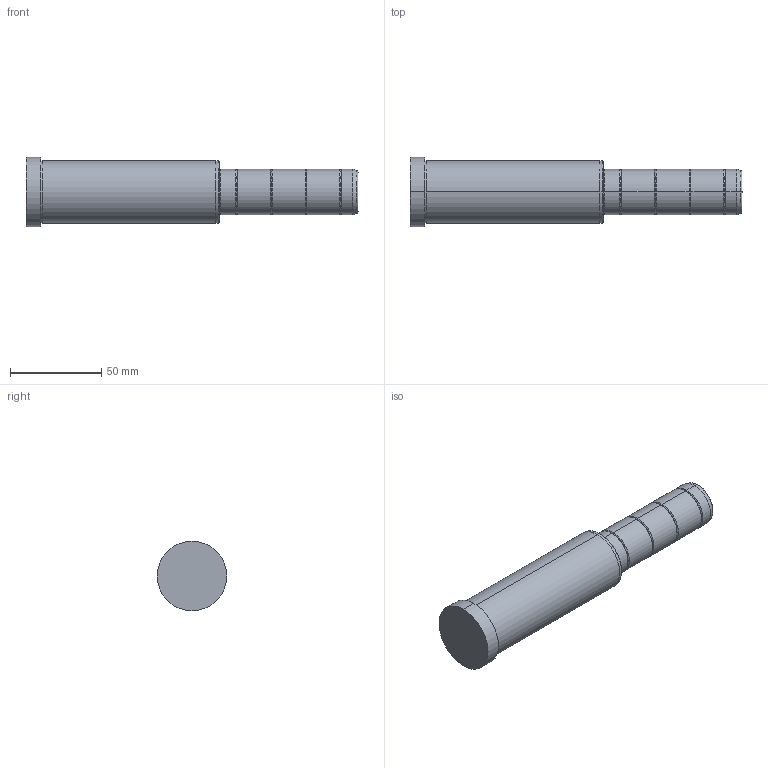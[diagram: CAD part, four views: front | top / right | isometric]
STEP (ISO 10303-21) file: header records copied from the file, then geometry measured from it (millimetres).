
FILE_DESCRIPTION( ( 'STEP AP203' ), '1' );
FILE_NAME( 'C:/Projects/D02 - 25x106x76.step', '2002-12-31T22:14:56', ( ' ' ), ( ' ' ), 'XStep 1.0', ' ', ' ' );
FILE_SCHEMA( ( 'CONFIG_CONTROL_DESIGN' ) );
Length unit declared in the file: metre
Products named in the file (1): 1
Bounding box: 182 x 38 x 38 mm (x, y, z)
Volume: 135225.9 mm3; surface area: 19709.1 mm2
Topology: 1 solids, 1 shells, 48 faces, 94 edges, 52 vertices
Faces by surface type: bspline 26, revolution 22
Entity records: 1523 total; most frequent: CARTESIAN_POINT 617, ORIENTED_EDGE 188, DIRECTION 150, EDGE_CURVE 94, AXIS2_PLACEMENT_3D 53, EDGE_LOOP 52, VERTEX_POINT 52, CIRCLE 52
